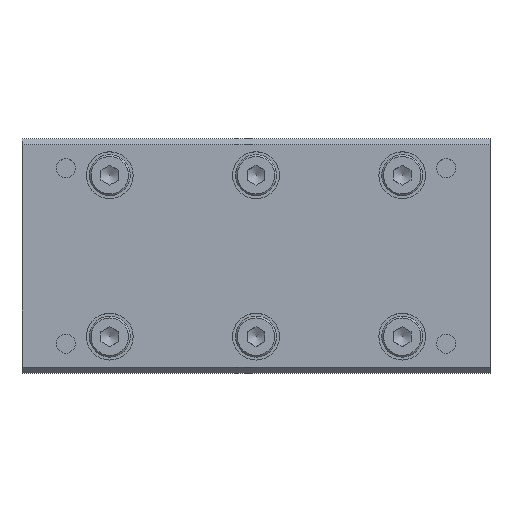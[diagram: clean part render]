
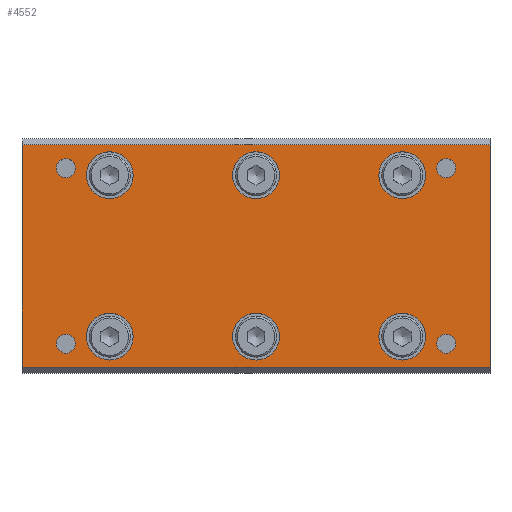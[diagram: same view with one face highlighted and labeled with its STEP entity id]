
A CAD part, top view. The second image highlights one B-rep face of the part: STEP entity #4552.
In plain terms, the highlighted planar face has unit normal (0, 0, 1).
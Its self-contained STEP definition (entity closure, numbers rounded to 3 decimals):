
#3642=CARTESIAN_POINT('',(80.0,19.0,10.));
#3643=VERTEX_POINT('',#3642);
#3650=CARTESIAN_POINT('',(80.0,-19.0,10.));
#3651=VERTEX_POINT('',#3650);
#3652=CARTESIAN_POINT('',(80.0,-19.0,10.));
#3653=DIRECTION('',(0.0,1.0,0.0));
#3654=VECTOR('',#3653,38.0);
#3655=LINE('',#3652,#3654);
#3656=EDGE_CURVE('',#3651,#3643,#3655,.T.);
#3795=CARTESIAN_POINT('',(19.,-13.8,10.));
#3796=VERTEX_POINT('',#3795);
#3797=CARTESIAN_POINT('',(15.,-13.8,10.));
#3798=DIRECTION('',(0.0,0.0,-1.0));
#3799=DIRECTION('',(1.0,0.0,0.0));
#3800=AXIS2_PLACEMENT_3D('',#3797,#3798,#3799);
#3801=CIRCLE('',#3800,4.0);
#3802=EDGE_CURVE('',#3796,#3796,#3801,.T.);
#3864=CARTESIAN_POINT('',(19.0,13.8,10.));
#3865=VERTEX_POINT('',#3864);
#3866=CARTESIAN_POINT('',(15.0,13.8,10.));
#3867=DIRECTION('',(0.0,0.0,-1.0));
#3868=DIRECTION('',(1.0,0.0,0.0));
#3869=AXIS2_PLACEMENT_3D('',#3866,#3867,#3868);
#3870=CIRCLE('',#3869,4.0);
#3871=EDGE_CURVE('',#3865,#3865,#3870,.T.);
#3945=CARTESIAN_POINT('',(44.0,-13.8,10.));
#3946=VERTEX_POINT('',#3945);
#3947=CARTESIAN_POINT('',(40.,-13.8,10.));
#3948=DIRECTION('',(0.0,0.0,-1.0));
#3949=DIRECTION('',(1.0,0.0,0.0));
#3950=AXIS2_PLACEMENT_3D('',#3947,#3948,#3949);
#3951=CIRCLE('',#3950,4.0);
#3952=EDGE_CURVE('',#3946,#3946,#3951,.T.);
#3986=CARTESIAN_POINT('',(44.0,13.8,10.));
#3987=VERTEX_POINT('',#3986);
#3988=CARTESIAN_POINT('',(40.0,13.8,10.));
#3989=DIRECTION('',(0.0,0.0,-1.0));
#3990=DIRECTION('',(1.0,0.0,0.0));
#3991=AXIS2_PLACEMENT_3D('',#3988,#3989,#3990);
#3992=CIRCLE('',#3991,4.0);
#3993=EDGE_CURVE('',#3987,#3987,#3992,.T.);
#4067=CARTESIAN_POINT('',(69.0,-13.8,10.));
#4068=VERTEX_POINT('',#4067);
#4069=CARTESIAN_POINT('',(65.,-13.8,10.));
#4070=DIRECTION('',(0.0,0.0,-1.0));
#4071=DIRECTION('',(1.0,0.0,0.0));
#4072=AXIS2_PLACEMENT_3D('',#4069,#4070,#4071);
#4073=CIRCLE('',#4072,4.0);
#4074=EDGE_CURVE('',#4068,#4068,#4073,.T.);
#4108=CARTESIAN_POINT('',(69.0,13.8,10.));
#4109=VERTEX_POINT('',#4108);
#4110=CARTESIAN_POINT('',(65.0,13.8,10.));
#4111=DIRECTION('',(0.0,0.0,-1.0));
#4112=DIRECTION('',(1.0,0.0,0.0));
#4113=AXIS2_PLACEMENT_3D('',#4110,#4111,#4112);
#4114=CIRCLE('',#4113,4.0);
#4115=EDGE_CURVE('',#4109,#4109,#4114,.T.);
#4180=CARTESIAN_POINT('',(9.121,-15.,10.));
#4181=VERTEX_POINT('',#4180);
#4182=CARTESIAN_POINT('',(7.5,-15.,10.));
#4183=DIRECTION('',(0.0,0.0,-1.0));
#4184=DIRECTION('',(1.0,0.0,0.0));
#4185=AXIS2_PLACEMENT_3D('',#4182,#4183,#4184);
#4186=CIRCLE('',#4185,1.621);
#4187=EDGE_CURVE('',#4181,#4181,#4186,.T.);
#4229=CARTESIAN_POINT('',(9.121,15.,10.));
#4230=VERTEX_POINT('',#4229);
#4231=CARTESIAN_POINT('',(7.5,15.,10.));
#4232=DIRECTION('',(0.0,0.0,-1.0));
#4233=DIRECTION('',(1.0,0.0,0.0));
#4234=AXIS2_PLACEMENT_3D('',#4231,#4232,#4233);
#4235=CIRCLE('',#4234,1.621);
#4236=EDGE_CURVE('',#4230,#4230,#4235,.T.);
#4278=CARTESIAN_POINT('',(74.121,-15.,10.));
#4279=VERTEX_POINT('',#4278);
#4280=CARTESIAN_POINT('',(72.5,-15.,10.));
#4281=DIRECTION('',(0.0,0.0,-1.0));
#4282=DIRECTION('',(1.0,0.0,0.0));
#4283=AXIS2_PLACEMENT_3D('',#4280,#4281,#4282);
#4284=CIRCLE('',#4283,1.621);
#4285=EDGE_CURVE('',#4279,#4279,#4284,.T.);
#4327=CARTESIAN_POINT('',(74.121,15.,10.));
#4328=VERTEX_POINT('',#4327);
#4329=CARTESIAN_POINT('',(72.5,15.,10.));
#4330=DIRECTION('',(0.0,0.0,-1.0));
#4331=DIRECTION('',(1.0,0.0,0.0));
#4332=AXIS2_PLACEMENT_3D('',#4329,#4330,#4331);
#4333=CIRCLE('',#4332,1.621);
#4334=EDGE_CURVE('',#4328,#4328,#4333,.T.);
#4482=CARTESIAN_POINT('',(0.0,19.0,10.));
#4483=VERTEX_POINT('',#4482);
#4490=CARTESIAN_POINT('',(0.0,19.0,10.));
#4491=DIRECTION('',(1.0,0.0,0.0));
#4492=VECTOR('',#4491,80.0);
#4493=LINE('',#4490,#4492);
#4494=EDGE_CURVE('',#4483,#3643,#4493,.T.);
#4499=CARTESIAN_POINT('',(0.0,-20.0,10.));
#4500=DIRECTION('',(0.0,0.0,1.0));
#4501=DIRECTION('',(1.0,0.0,0.0));
#4502=AXIS2_PLACEMENT_3D('',#4499,#4500,#4501);
#4503=PLANE('',#4502);
#4504=CARTESIAN_POINT('',(0.0,-19.0,10.));
#4505=VERTEX_POINT('',#4504);
#4506=CARTESIAN_POINT('',(80.0,-19.0,10.));
#4507=DIRECTION('',(-1.0,0.0,0.0));
#4508=VECTOR('',#4507,80.0);
#4509=LINE('',#4506,#4508);
#4510=EDGE_CURVE('',#3651,#4505,#4509,.T.);
#4511=ORIENTED_EDGE('',*,*,#4510,.F.);
#4512=ORIENTED_EDGE('',*,*,#3656,.T.);
#4513=ORIENTED_EDGE('',*,*,#4494,.F.);
#4514=CARTESIAN_POINT('',(0.0,19.0,10.));
#4515=DIRECTION('',(0.0,-1.0,0.0));
#4516=VECTOR('',#4515,38.0);
#4517=LINE('',#4514,#4516);
#4518=EDGE_CURVE('',#4483,#4505,#4517,.T.);
#4519=ORIENTED_EDGE('',*,*,#4518,.T.);
#4520=EDGE_LOOP('',(#4511,#4512,#4513,#4519));
#4521=FACE_OUTER_BOUND('',#4520,.T.);
#4522=ORIENTED_EDGE('',*,*,#4334,.T.);
#4523=EDGE_LOOP('',(#4522));
#4524=FACE_BOUND('',#4523,.T.);
#4525=ORIENTED_EDGE('',*,*,#4285,.T.);
#4526=EDGE_LOOP('',(#4525));
#4527=FACE_BOUND('',#4526,.T.);
#4528=ORIENTED_EDGE('',*,*,#4236,.T.);
#4529=EDGE_LOOP('',(#4528));
#4530=FACE_BOUND('',#4529,.T.);
#4531=ORIENTED_EDGE('',*,*,#4187,.T.);
#4532=EDGE_LOOP('',(#4531));
#4533=FACE_BOUND('',#4532,.T.);
#4534=ORIENTED_EDGE('',*,*,#4115,.T.);
#4535=EDGE_LOOP('',(#4534));
#4536=FACE_BOUND('',#4535,.T.);
#4537=ORIENTED_EDGE('',*,*,#4074,.T.);
#4538=EDGE_LOOP('',(#4537));
#4539=FACE_BOUND('',#4538,.T.);
#4540=ORIENTED_EDGE('',*,*,#3993,.T.);
#4541=EDGE_LOOP('',(#4540));
#4542=FACE_BOUND('',#4541,.T.);
#4543=ORIENTED_EDGE('',*,*,#3952,.T.);
#4544=EDGE_LOOP('',(#4543));
#4545=FACE_BOUND('',#4544,.T.);
#4546=ORIENTED_EDGE('',*,*,#3871,.T.);
#4547=EDGE_LOOP('',(#4546));
#4548=FACE_BOUND('',#4547,.T.);
#4549=ORIENTED_EDGE('',*,*,#3802,.T.);
#4550=EDGE_LOOP('',(#4549));
#4551=FACE_BOUND('',#4550,.T.);
#4552=ADVANCED_FACE('',(#4521,#4524,#4527,#4530,#4533,#4536,#4539,#4542,#4545,#4548,#4551),#4503,.T.);
